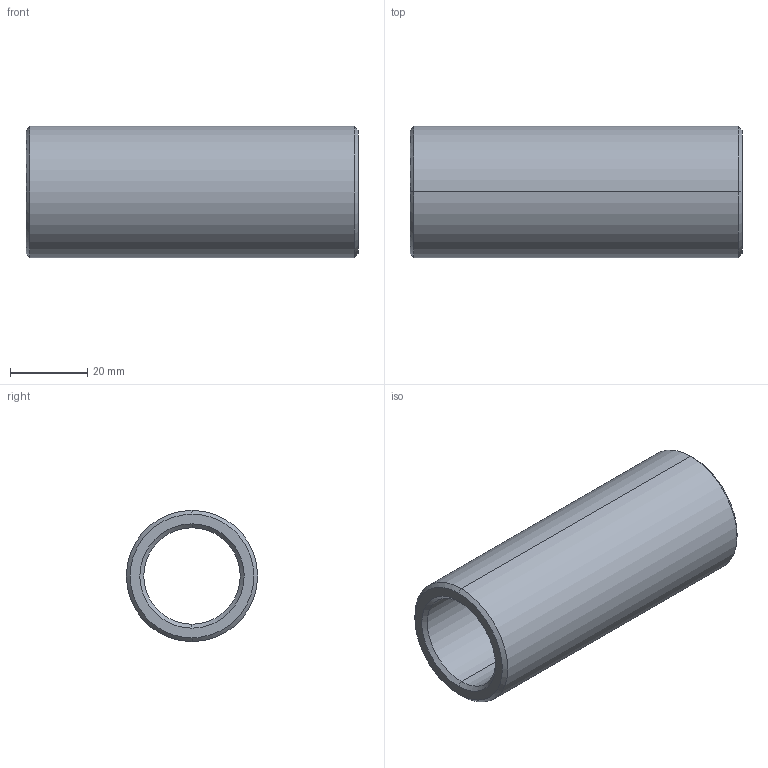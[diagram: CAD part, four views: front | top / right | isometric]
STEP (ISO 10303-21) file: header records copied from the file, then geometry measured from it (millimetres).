
FILE_DESCRIPTION(('CATIA V5 STEP Exchange'),'2;1');
FILE_NAME('C:\Users\Utente\Desktop\IO LAVORO\3D X SITO CF\X SITO\PLASTICA\352\352-25X86.stp','2021-04-14T15:26:04+00:00',('none'),('none'),'CATIA Version 5 Release 20 GA (IN-10)','CATIA V5 STEP AP203','none');
FILE_SCHEMA(('CONFIG_CONTROL_DESIGN'));
Length unit declared in the file: millimetre
Products named in the file (1): 352-25X86
Bounding box: 86 x 34 x 34 mm (x, y, z)
Volume: 35703.8 mm3; surface area: 16568.8 mm2
Topology: 1 solids, 1 shells, 14 faces, 44 edges, 32 vertices
Faces by surface type: cone 6, cylinder 4, plane 2, torus 2
Entity records: 634 total; most frequent: CARTESIAN_POINT 203, ORIENTED_EDGE 88, DIRECTION 64, EDGE_CURVE 44, AXIS2_PLACEMENT_3D 41, VERTEX_POINT 32, CIRCLE 26, EDGE_LOOP 16
